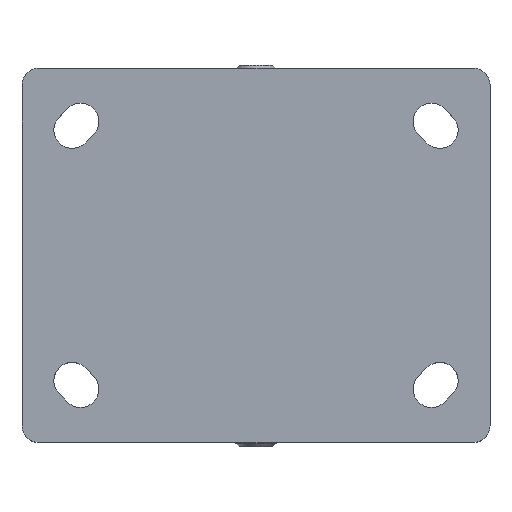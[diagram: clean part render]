
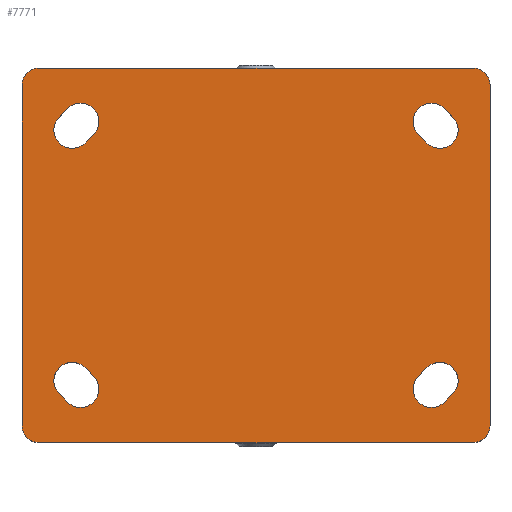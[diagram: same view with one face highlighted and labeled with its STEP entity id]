
A CAD part, top view. The second image highlights one B-rep face of the part: STEP entity #7771.
In plain terms, the highlighted planar face has unit normal (0, 0, 1).
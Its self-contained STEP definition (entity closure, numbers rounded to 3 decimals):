
#7552=CARTESIAN_POINT('',(89.481,129.489,12.0));
#7553=DIRECTION('',(0.0,0.0,1.0));
#7554=DIRECTION('',(1.0,0.0,0.0));
#7555=AXIS2_PLACEMENT_3D('',#7552,#7553,#7554);
#7556=PLANE('',#7555);
#7557=CARTESIAN_POINT('',(19.481,180.489,12.0));
#7558=VERTEX_POINT('',#7557);
#7559=CARTESIAN_POINT('',(24.481,185.489,12.0));
#7560=VERTEX_POINT('',#7559);
#7561=CARTESIAN_POINT('',(24.481,180.489,12.0));
#7562=DIRECTION('',(0.0,0.0,-1.));
#7563=DIRECTION('',(-0.707,0.707,0.0));
#7564=AXIS2_PLACEMENT_3D('',#7561,#7562,#7563);
#7565=CIRCLE('',#7564,5.);
#7566=EDGE_CURVE('',#7558,#7560,#7565,.T.);
#7567=ORIENTED_EDGE('',*,*,#7566,.F.);
#7568=CARTESIAN_POINT('',(19.481,78.489,12.0));
#7569=VERTEX_POINT('',#7568);
#7570=CARTESIAN_POINT('',(19.481,78.489,12.0));
#7571=DIRECTION('',(0.0,1.0,0.0));
#7572=VECTOR('',#7571,102.);
#7573=LINE('',#7570,#7572);
#7574=EDGE_CURVE('',#7569,#7558,#7573,.T.);
#7575=ORIENTED_EDGE('',*,*,#7574,.F.);
#7576=CARTESIAN_POINT('',(24.481,73.489,12.0));
#7577=VERTEX_POINT('',#7576);
#7578=CARTESIAN_POINT('',(24.481,78.489,12.0));
#7579=DIRECTION('',(0.0,0.0,-1.));
#7580=DIRECTION('',(-0.707,-0.707,0.0));
#7581=AXIS2_PLACEMENT_3D('',#7578,#7579,#7580);
#7582=CIRCLE('',#7581,5.);
#7583=EDGE_CURVE('',#7577,#7569,#7582,.T.);
#7584=ORIENTED_EDGE('',*,*,#7583,.F.);
#7585=CARTESIAN_POINT('',(154.481,73.489,12.0));
#7586=VERTEX_POINT('',#7585);
#7587=CARTESIAN_POINT('',(154.481,73.489,12.0));
#7588=DIRECTION('',(-1.0,0.0,0.0));
#7589=VECTOR('',#7588,130.);
#7590=LINE('',#7587,#7589);
#7591=EDGE_CURVE('',#7586,#7577,#7590,.T.);
#7592=ORIENTED_EDGE('',*,*,#7591,.F.);
#7593=CARTESIAN_POINT('',(159.481,78.489,12.0));
#7594=VERTEX_POINT('',#7593);
#7595=CARTESIAN_POINT('',(154.481,78.489,12.0));
#7596=DIRECTION('',(0.0,0.0,-1.));
#7597=DIRECTION('',(0.707,-0.707,0.0));
#7598=AXIS2_PLACEMENT_3D('',#7595,#7596,#7597);
#7599=CIRCLE('',#7598,5.);
#7600=EDGE_CURVE('',#7594,#7586,#7599,.T.);
#7601=ORIENTED_EDGE('',*,*,#7600,.F.);
#7602=CARTESIAN_POINT('',(159.481,180.489,12.0));
#7603=VERTEX_POINT('',#7602);
#7604=CARTESIAN_POINT('',(159.481,180.489,12.0));
#7605=DIRECTION('',(0.0,-1.0,0.0));
#7606=VECTOR('',#7605,102.0);
#7607=LINE('',#7604,#7606);
#7608=EDGE_CURVE('',#7603,#7594,#7607,.T.);
#7609=ORIENTED_EDGE('',*,*,#7608,.F.);
#7610=CARTESIAN_POINT('',(154.481,185.489,12.0));
#7611=VERTEX_POINT('',#7610);
#7612=CARTESIAN_POINT('',(154.481,180.489,12.0));
#7613=DIRECTION('',(0.0,0.0,-1.0));
#7614=DIRECTION('',(0.707,0.707,0.0));
#7615=AXIS2_PLACEMENT_3D('',#7612,#7613,#7614);
#7616=CIRCLE('',#7615,5.);
#7617=EDGE_CURVE('',#7611,#7603,#7616,.T.);
#7618=ORIENTED_EDGE('',*,*,#7617,.F.);
#7619=CARTESIAN_POINT('',(24.481,185.489,12.0));
#7620=DIRECTION('',(1.0,0.0,0.0));
#7621=VECTOR('',#7620,130.);
#7622=LINE('',#7619,#7621);
#7623=EDGE_CURVE('',#7560,#7611,#7622,.T.);
#7624=ORIENTED_EDGE('',*,*,#7623,.F.);
#7625=EDGE_LOOP('',(#7567,#7575,#7584,#7592,#7601,#7609,#7618,#7624));
#7626=FACE_OUTER_BOUND('',#7625,.T.);
#7627=CARTESIAN_POINT('',(145.87,85.6,12.0));
#7628=VERTEX_POINT('',#7627);
#7629=CARTESIAN_POINT('',(138.092,93.378,12.0));
#7630=VERTEX_POINT('',#7629);
#7631=CARTESIAN_POINT('',(141.981,89.489,12.0));
#7632=DIRECTION('',(0.0,0.0,-1.0));
#7633=DIRECTION('',(1.0,0.0,0.0));
#7634=AXIS2_PLACEMENT_3D('',#7631,#7632,#7633);
#7635=CIRCLE('',#7634,5.5);
#7636=EDGE_CURVE('',#7628,#7630,#7635,.T.);
#7637=ORIENTED_EDGE('',*,*,#7636,.T.);
#7638=CARTESIAN_POINT('',(140.592,95.878,12.0));
#7639=VERTEX_POINT('',#7638);
#7640=CARTESIAN_POINT('',(138.092,93.378,12.0));
#7641=DIRECTION('',(0.707,0.707,0.0));
#7642=VECTOR('',#7641,3.536);
#7643=LINE('',#7640,#7642);
#7644=EDGE_CURVE('',#7630,#7639,#7643,.T.);
#7645=ORIENTED_EDGE('',*,*,#7644,.T.);
#7646=CARTESIAN_POINT('',(148.37,88.1,12.0));
#7647=VERTEX_POINT('',#7646);
#7648=CARTESIAN_POINT('',(144.481,91.989,12.0));
#7649=DIRECTION('',(0.0,0.0,-1.0));
#7650=DIRECTION('',(1.0,0.0,0.0));
#7651=AXIS2_PLACEMENT_3D('',#7648,#7649,#7650);
#7652=CIRCLE('',#7651,5.5);
#7653=EDGE_CURVE('',#7639,#7647,#7652,.T.);
#7654=ORIENTED_EDGE('',*,*,#7653,.T.);
#7655=CARTESIAN_POINT('',(148.37,88.1,12.0));
#7656=DIRECTION('',(-0.707,-0.707,0.0));
#7657=VECTOR('',#7656,3.536);
#7658=LINE('',#7655,#7657);
#7659=EDGE_CURVE('',#7647,#7628,#7658,.T.);
#7660=ORIENTED_EDGE('',*,*,#7659,.T.);
#7661=EDGE_LOOP('',(#7637,#7645,#7654,#7660));
#7662=FACE_BOUND('',#7661,.T.);
#7663=CARTESIAN_POINT('',(40.87,165.6,12.0));
#7664=VERTEX_POINT('',#7663);
#7665=CARTESIAN_POINT('',(38.37,163.1,12.0));
#7666=VERTEX_POINT('',#7665);
#7667=CARTESIAN_POINT('',(40.87,165.6,12.0));
#7668=DIRECTION('',(-0.707,-0.707,0.0));
#7669=VECTOR('',#7668,3.536);
#7670=LINE('',#7667,#7669);
#7671=EDGE_CURVE('',#7664,#7666,#7670,.T.);
#7672=ORIENTED_EDGE('',*,*,#7671,.T.);
#7673=CARTESIAN_POINT('',(30.592,170.878,12.0));
#7674=VERTEX_POINT('',#7673);
#7675=CARTESIAN_POINT('',(34.481,166.989,12.0));
#7676=DIRECTION('',(0.0,0.0,-1.0));
#7677=DIRECTION('',(1.0,0.0,0.0));
#7678=AXIS2_PLACEMENT_3D('',#7675,#7676,#7677);
#7679=CIRCLE('',#7678,5.5);
#7680=EDGE_CURVE('',#7666,#7674,#7679,.T.);
#7681=ORIENTED_EDGE('',*,*,#7680,.T.);
#7682=CARTESIAN_POINT('',(33.092,173.378,12.0));
#7683=VERTEX_POINT('',#7682);
#7684=CARTESIAN_POINT('',(30.592,170.878,12.0));
#7685=DIRECTION('',(0.707,0.707,0.0));
#7686=VECTOR('',#7685,3.536);
#7687=LINE('',#7684,#7686);
#7688=EDGE_CURVE('',#7674,#7683,#7687,.T.);
#7689=ORIENTED_EDGE('',*,*,#7688,.T.);
#7690=CARTESIAN_POINT('',(36.981,169.489,12.0));
#7691=DIRECTION('',(0.0,0.0,-1.0));
#7692=DIRECTION('',(1.0,0.0,0.0));
#7693=AXIS2_PLACEMENT_3D('',#7690,#7691,#7692);
#7694=CIRCLE('',#7693,5.5);
#7695=EDGE_CURVE('',#7683,#7664,#7694,.T.);
#7696=ORIENTED_EDGE('',*,*,#7695,.T.);
#7697=EDGE_LOOP('',(#7672,#7681,#7689,#7696));
#7698=FACE_BOUND('',#7697,.T.);
#7699=CARTESIAN_POINT('',(30.592,88.1,12.0));
#7700=VERTEX_POINT('',#7699);
#7701=CARTESIAN_POINT('',(38.37,95.878,12.0));
#7702=VERTEX_POINT('',#7701);
#7703=CARTESIAN_POINT('',(34.481,91.989,12.0));
#7704=DIRECTION('',(0.0,0.0,-1.0));
#7705=DIRECTION('',(1.0,0.0,0.0));
#7706=AXIS2_PLACEMENT_3D('',#7703,#7704,#7705);
#7707=CIRCLE('',#7706,5.5);
#7708=EDGE_CURVE('',#7700,#7702,#7707,.T.);
#7709=ORIENTED_EDGE('',*,*,#7708,.T.);
#7710=CARTESIAN_POINT('',(40.87,93.378,12.0));
#7711=VERTEX_POINT('',#7710);
#7712=CARTESIAN_POINT('',(38.37,95.878,12.0));
#7713=DIRECTION('',(0.707,-0.707,0.0));
#7714=VECTOR('',#7713,3.536);
#7715=LINE('',#7712,#7714);
#7716=EDGE_CURVE('',#7702,#7711,#7715,.T.);
#7717=ORIENTED_EDGE('',*,*,#7716,.T.);
#7718=CARTESIAN_POINT('',(33.092,85.6,12.0));
#7719=VERTEX_POINT('',#7718);
#7720=CARTESIAN_POINT('',(36.981,89.489,12.0));
#7721=DIRECTION('',(0.0,0.0,-1.0));
#7722=DIRECTION('',(1.0,0.0,0.0));
#7723=AXIS2_PLACEMENT_3D('',#7720,#7721,#7722);
#7724=CIRCLE('',#7723,5.5);
#7725=EDGE_CURVE('',#7711,#7719,#7724,.T.);
#7726=ORIENTED_EDGE('',*,*,#7725,.T.);
#7727=CARTESIAN_POINT('',(33.092,85.6,12.0));
#7728=DIRECTION('',(-0.707,0.707,0.0));
#7729=VECTOR('',#7728,3.536);
#7730=LINE('',#7727,#7729);
#7731=EDGE_CURVE('',#7719,#7700,#7730,.T.);
#7732=ORIENTED_EDGE('',*,*,#7731,.T.);
#7733=EDGE_LOOP('',(#7709,#7717,#7726,#7732));
#7734=FACE_BOUND('',#7733,.T.);
#7735=CARTESIAN_POINT('',(148.37,170.878,12.0));
#7736=VERTEX_POINT('',#7735);
#7737=CARTESIAN_POINT('',(140.592,163.1,12.0));
#7738=VERTEX_POINT('',#7737);
#7739=CARTESIAN_POINT('',(144.481,166.989,12.0));
#7740=DIRECTION('',(0.0,0.0,-1.0));
#7741=DIRECTION('',(1.0,0.0,0.0));
#7742=AXIS2_PLACEMENT_3D('',#7739,#7740,#7741);
#7743=CIRCLE('',#7742,5.5);
#7744=EDGE_CURVE('',#7736,#7738,#7743,.T.);
#7745=ORIENTED_EDGE('',*,*,#7744,.T.);
#7746=CARTESIAN_POINT('',(138.092,165.6,12.0));
#7747=VERTEX_POINT('',#7746);
#7748=CARTESIAN_POINT('',(140.592,163.1,12.0));
#7749=DIRECTION('',(-0.707,0.707,0.0));
#7750=VECTOR('',#7749,3.536);
#7751=LINE('',#7748,#7750);
#7752=EDGE_CURVE('',#7738,#7747,#7751,.T.);
#7753=ORIENTED_EDGE('',*,*,#7752,.T.);
#7754=CARTESIAN_POINT('',(145.87,173.378,12.0));
#7755=VERTEX_POINT('',#7754);
#7756=CARTESIAN_POINT('',(141.981,169.489,12.0));
#7757=DIRECTION('',(0.0,0.0,-1.0));
#7758=DIRECTION('',(1.0,0.0,0.0));
#7759=AXIS2_PLACEMENT_3D('',#7756,#7757,#7758);
#7760=CIRCLE('',#7759,5.5);
#7761=EDGE_CURVE('',#7747,#7755,#7760,.T.);
#7762=ORIENTED_EDGE('',*,*,#7761,.T.);
#7763=CARTESIAN_POINT('',(145.87,173.378,12.0));
#7764=DIRECTION('',(0.707,-0.707,0.0));
#7765=VECTOR('',#7764,3.536);
#7766=LINE('',#7763,#7765);
#7767=EDGE_CURVE('',#7755,#7736,#7766,.T.);
#7768=ORIENTED_EDGE('',*,*,#7767,.T.);
#7769=EDGE_LOOP('',(#7745,#7753,#7762,#7768));
#7770=FACE_BOUND('',#7769,.T.);
#7771=ADVANCED_FACE('',(#7626,#7662,#7698,#7734,#7770),#7556,.T.);
